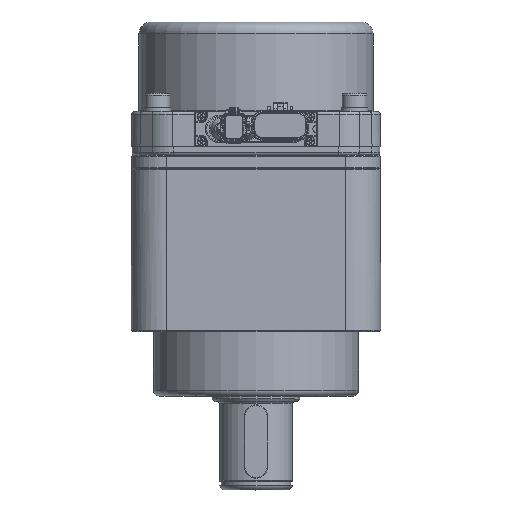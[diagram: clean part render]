
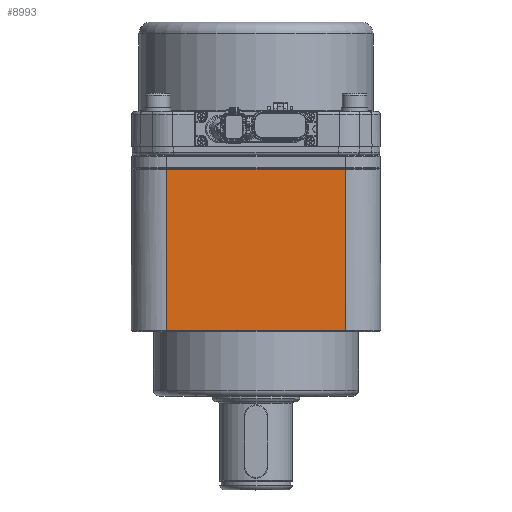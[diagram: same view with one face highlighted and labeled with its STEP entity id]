
A CAD part, top view. The second image highlights one B-rep face of the part: STEP entity #8993.
In plain terms, the highlighted planar face has unit normal (0, 0, 1).
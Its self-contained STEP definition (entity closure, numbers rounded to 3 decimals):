
#3086=FACE_OUTER_BOUND('',#11753,.T.);
#3660=PLANE('',#29429);
#5490=LINE('',#46793,#7345);
#5508=LINE('',#46959,#7363);
#5511=LINE('',#46967,#7366);
#5512=LINE('',#46971,#7367);
#7345=VECTOR('',#36936,1.);
#7363=VECTOR('',#37096,1.);
#7366=VECTOR('',#37105,1.);
#7367=VECTOR('',#37112,1.);
#8993=ADVANCED_FACE('',(#3086),#3660,.F.);
#11753=EDGE_LOOP('',(#19045,#19046,#19047,#19048));
#19045=ORIENTED_EDGE('',*,*,#25067,.T.);
#19046=ORIENTED_EDGE('',*,*,#25002,.T.);
#19047=ORIENTED_EDGE('',*,*,#25073,.T.);
#19048=ORIENTED_EDGE('',*,*,#25071,.T.);
#21366=VERTEX_POINT('',#46780);
#21370=VERTEX_POINT('',#46792);
#21416=VERTEX_POINT('',#46960);
#21417=VERTEX_POINT('',#46966);
#25002=EDGE_CURVE('',#21366,#21370,#5490,.T.);
#25067=EDGE_CURVE('',#21416,#21366,#5508,.T.);
#25071=EDGE_CURVE('',#21417,#21416,#5511,.T.);
#25073=EDGE_CURVE('',#21370,#21417,#5512,.T.);
#29429=AXIS2_PLACEMENT_3D('',#46983,#37130,#37131);
#36936=DIRECTION('',(-1.,0.,0.));
#37096=DIRECTION('',(0.,1.,0.));
#37105=DIRECTION('',(1.,0.,0.));
#37112=DIRECTION('',(0.,-1.,0.));
#37130=DIRECTION('',(0.,0.,-1.));
#37131=DIRECTION('',(1.,0.,0.));
#46780=CARTESIAN_POINT('',(30.5,55.2,42.5));
#46792=CARTESIAN_POINT('',(-30.5,55.2,42.5));
#46793=CARTESIAN_POINT('',(-30.5,55.2,42.5));
#46959=CARTESIAN_POINT('',(30.5,0.,42.5));
#46960=CARTESIAN_POINT('',(30.5,0.3,42.5));
#46966=CARTESIAN_POINT('',(-30.5,0.3,42.5));
#46967=CARTESIAN_POINT('',(30.5,0.3,42.5));
#46971=CARTESIAN_POINT('',(-30.5,0.,42.5));
#46983=CARTESIAN_POINT('',(42.5,0.,42.5));
